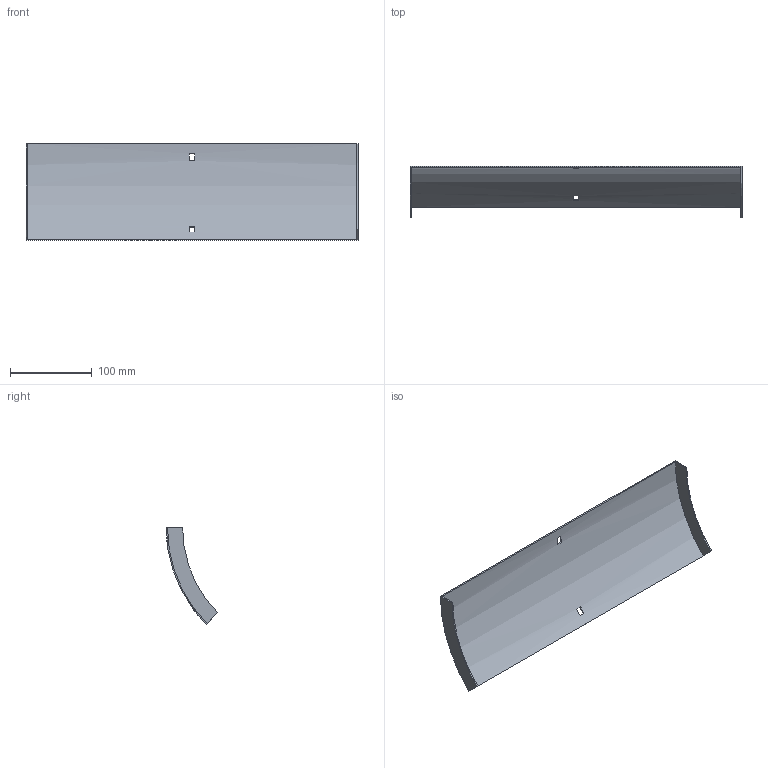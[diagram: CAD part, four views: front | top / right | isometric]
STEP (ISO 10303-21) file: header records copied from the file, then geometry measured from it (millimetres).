
FILE_DESCRIPTION (( 'STEP AP214' ), '1' );
FILE_NAME ('34N1H400.step', '2025-02-21T09:15:35', ( '' ), ( '' ), 'SwSTEP 2.0', 'SolidWorks 2023', '' );
FILE_SCHEMA (( 'AUTOMOTIVE_DESIGN' ));
Length unit declared in the file: millimetre
Products named in the file (1): 34N1H400
Bounding box: 407 x 63.06 x 118.09 mm (x, y, z)
Volume: 86349 mm3; surface area: 116905.6 mm2
Topology: 1 solids, 1 shells, 18 faces, 48 edges, 32 vertices
Faces by surface type: plane 14, cylinder 4
Entity records: 599 total; most frequent: DIRECTION 102, CARTESIAN_POINT 99, ORIENTED_EDGE 96, EDGE_CURVE 48, AXIS2_PLACEMENT_3D 35, VERTEX_POINT 32, VECTOR 32, LINE 32
